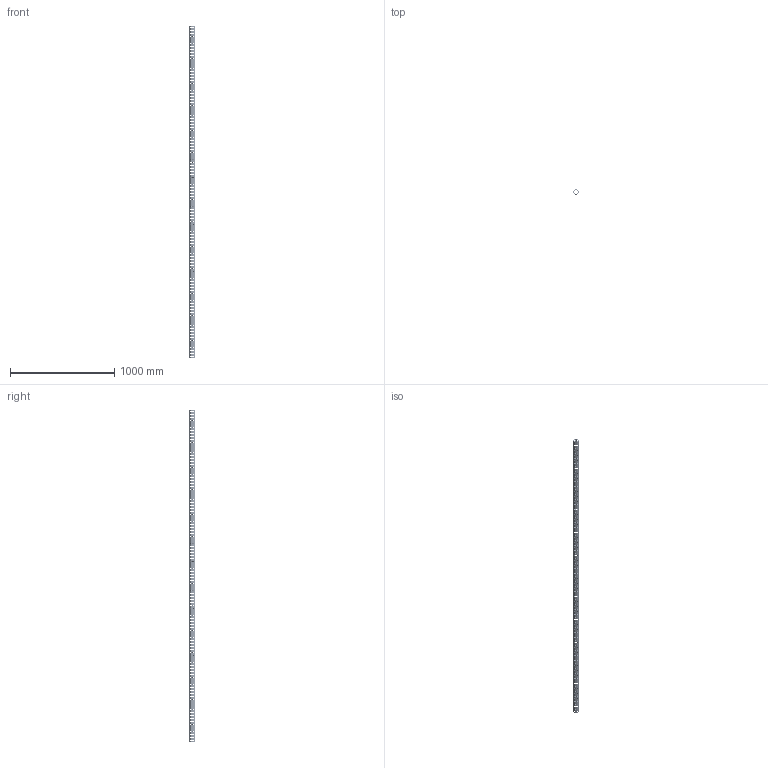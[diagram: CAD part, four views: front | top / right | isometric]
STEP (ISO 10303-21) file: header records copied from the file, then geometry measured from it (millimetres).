
FILE_DESCRIPTION(('CATIA V5 STEP Exchange'),'2;1');
FILE_NAME('U:\Room\唐宝山\EGT002\46-01-010335-01-EGT002-3178.stp','2021-08-24T07:21:53+00:00',('none'),('none'),'CATIA Version 5 Release 21 GA (IN-10)','CATIA V5 STEP AP203','none');
FILE_SCHEMA(('CONFIG_CONTROL_DESIGN'));
Products named in the file (1): 46-01-010335-01-EGT002-3178
Bounding box: 50 x 50 x 3178 mm (x, y, z)
Volume: 2264458.8 mm3; surface area: 1090661.7 mm2
Topology: 1 solids, 1 shells, 4324 faces, 11906 edges, 7372 vertices
Faces by surface type: cone 2544, cylinder 1754, plane 26
Entity records: 175750 total; most frequent: CARTESIAN_POINT 70859, ORIENTED_EDGE 23812, DIRECTION 16951, EDGE_CURVE 11906, AXIS2_PLACEMENT_3D 8046, VERTEX_POINT 7372, EDGE_LOOP 5810, VECTOR 4582
